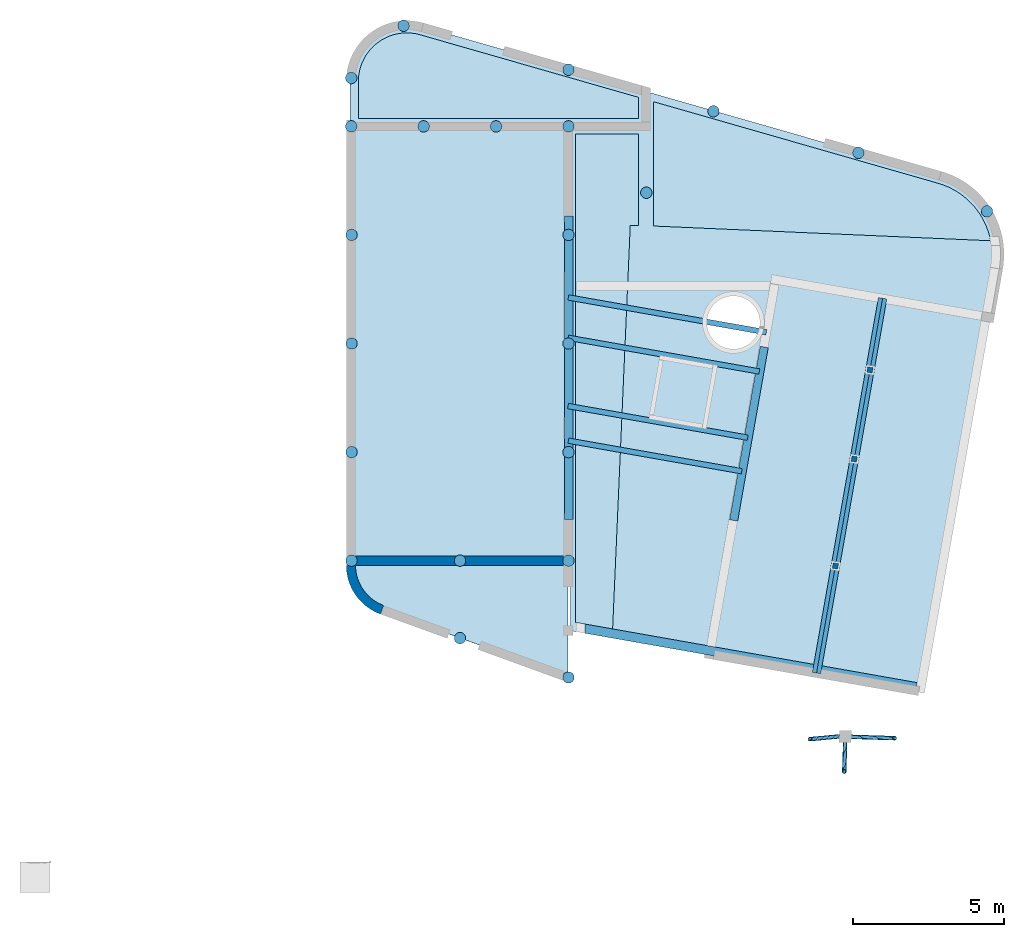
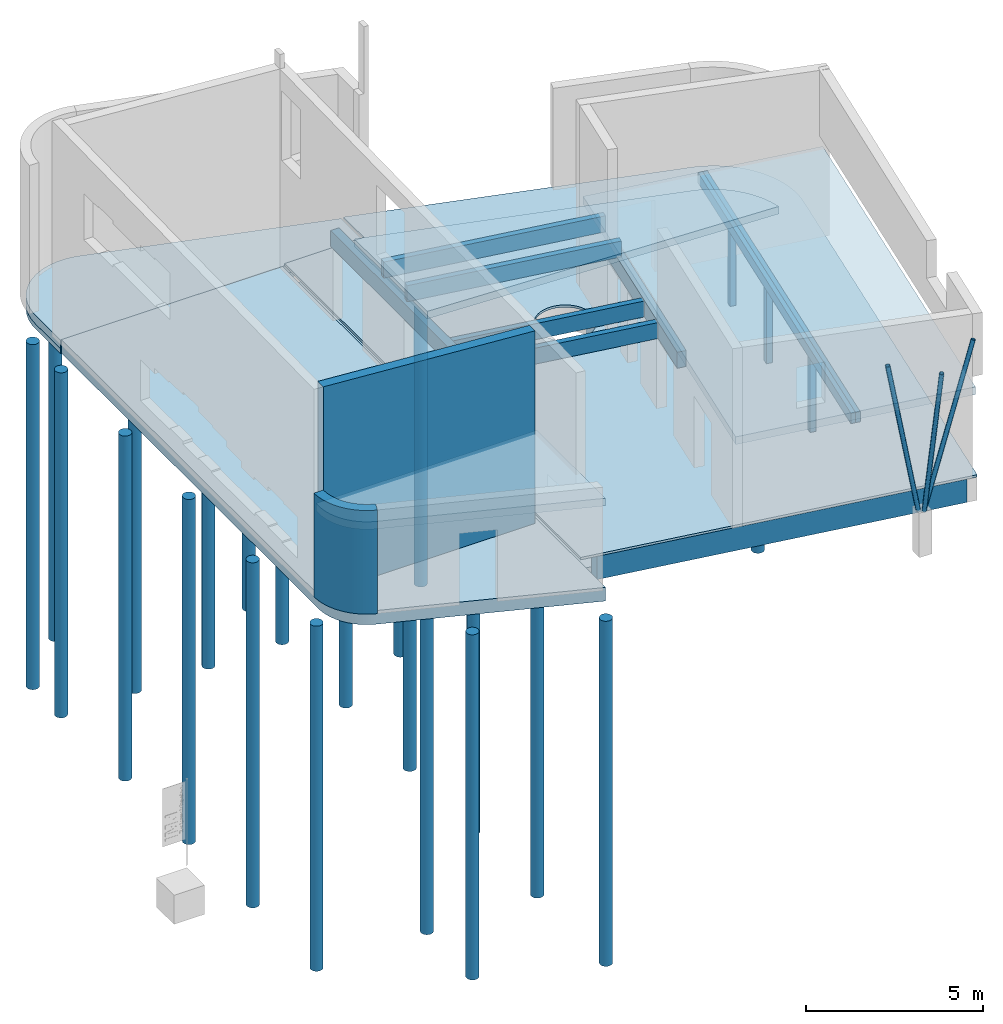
# One storey, part 1 of 3: 22 piles, 11 beams, 8 slabs, 3 columns, 3 walls, 1 opening.
"""IFC2X3 building model written with IfcOpenShell, lengths in millimetres."""

from ifc_helpers import new_model, entity, si_unit, converted_unit, derived_unit, direction, frame, frame_2d, origin, origin_2d_with_axis, place, context, subcontext, project, spatial, polyline, circle_curve, parameter, trimmed, segment, composite_curve, rectangle, circle, hollow_circle, outline, extrude, clip, bounded_halfspace, source, transform, mapped, material, material_list, layer, layer_set, layer_usage, type_object, type_shapes, element, save


model = new_model("IFC2X3")

# Units and contexts
model_context = context("Model", 3, precision=0.01, world=origin(), true_north=direction((6.12303176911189e-17, 1.0)))
context_of_model = context(None, 3, precision=0.01, world=origin(), true_north=direction((6.12303176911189e-17, 1.0)))
body_context = subcontext(model_context, "Body", "Model", "MODEL_VIEW")
ifc_project = project(units=[si_unit("LENGTHUNIT", "METRE", prefix="MILLI"), si_unit("AREAUNIT", "SQUARE_METRE"), si_unit("VOLUMEUNIT", "CUBIC_METRE"), converted_unit("PLANEANGLEUNIT", "DEGREE", entity("IfcRatioMeasure", 0.0174532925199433), si_unit("PLANEANGLEUNIT", "RADIAN"), dimensions=[0, 0, 0, 0, 0, 0, 0]), si_unit("MASSUNIT", "GRAM", prefix="KILO"), derived_unit("MASSDENSITYUNIT", [(si_unit("MASSUNIT", "GRAM", prefix="KILO"), 1), (si_unit("LENGTHUNIT", "METRE"), -3)]), derived_unit("MOMENTOFINERTIAUNIT", [(si_unit("LENGTHUNIT", "METRE"), 4)]), si_unit("TIMEUNIT", "SECOND"), si_unit("FREQUENCYUNIT", "HERTZ"), si_unit("THERMODYNAMICTEMPERATUREUNIT", "DEGREE_CELSIUS"), derived_unit("THERMALTRANSMITTANCEUNIT", [(si_unit("MASSUNIT", "GRAM", prefix="KILO"), 1), (si_unit("THERMODYNAMICTEMPERATUREUNIT", "KELVIN"), -1), (si_unit("TIMEUNIT", "SECOND"), -3)]), derived_unit("VOLUMETRICFLOWRATEUNIT", [(si_unit("LENGTHUNIT", "METRE"), 3), (si_unit("TIMEUNIT", "SECOND"), -1)]), si_unit("ELECTRICCURRENTUNIT", "AMPERE"), si_unit("ELECTRICVOLTAGEUNIT", "VOLT"), si_unit("POWERUNIT", "WATT"), si_unit("FORCEUNIT", "NEWTON", prefix="KILO"), si_unit("ILLUMINANCEUNIT", "LUX"), si_unit("LUMINOUSFLUXUNIT", "LUMEN"), si_unit("LUMINOUSINTENSITYUNIT", "CANDELA"), derived_unit("USERDEFINED", [(si_unit("MASSUNIT", "GRAM", prefix="KILO"), -1), (si_unit("LENGTHUNIT", "METRE"), -2), (si_unit("TIMEUNIT", "SECOND"), 3), (si_unit("LUMINOUSFLUXUNIT", "LUMEN"), 1)]), derived_unit("LINEARVELOCITYUNIT", [(si_unit("LENGTHUNIT", "METRE"), 1), (si_unit("TIMEUNIT", "SECOND"), -1)]), si_unit("PRESSUREUNIT", "PASCAL"), derived_unit("USERDEFINED", [(si_unit("LENGTHUNIT", "METRE"), -2), (si_unit("MASSUNIT", "GRAM", prefix="KILO"), 1), (si_unit("TIMEUNIT", "SECOND"), -2)]), derived_unit("LINEARFORCEUNIT", [(si_unit("MASSUNIT", "GRAM", prefix="KILO"), 1), (si_unit("LENGTHUNIT", "METRE"), 1), (si_unit("TIMEUNIT", "SECOND"), -2), (si_unit("LENGTHUNIT", "METRE"), -1)]), derived_unit("PLANARFORCEUNIT", [(si_unit("MASSUNIT", "GRAM", prefix="KILO"), 1), (si_unit("LENGTHUNIT", "METRE"), 1), (si_unit("TIMEUNIT", "SECOND"), -2), (si_unit("LENGTHUNIT", "METRE"), -2)])], contexts=[model_context, context_of_model])

# Site, building, storey
site_placement = place(None, origin())
site = spatial("IfcSite", under=ifc_project, at=site_placement, Name="Default", CompositionType="ELEMENT")
building_placement = place(site_placement, origin())
building = spatial("IfcBuilding", under=site, at=building_placement, Name="IFc", CompositionType="ELEMENT")
storey_placement = place(building_placement, frame((0.0, 0.0, -70.0)))
storey = spatial("IfcBuildingStorey", under=building, at=storey_placement, Name="00 begane grond b.k. ruwe vloer", CompositionType="ELEMENT", Elevation=-70.0)

# Piles
ifc_material_1 = material(Name="IMd_beton_IHWG")
shared_shape_1 = source(origin(), body_context, "Body", "SweptSolid", [
    extrude(circle(Radius=190.0, at=frame_2d((3.25983355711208e-29, -2.85239492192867e-13), x_axis=(1.0, 0.0))), frame((0.0, 0.0, -13000.0), z_axis=(0.0, 0.0, 1.0), x_axis=(-1.0, 0.0, 0.0)), (0.0, 0.0, 1.0), 11889.9999999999),
])
for number, where in (
    (1, (9984.0, 24397.0, 70.0)),
    (2, (17187.0, 24397.0, 70.0)),
    (3, (17187.0, 26276.860835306, 70.0)),
    (4, (17187.0, 9997.0, 70.0)),
    (5, (9993.0, 9997.0, 70.0)),
    (6, (13590.0, 9997.0, 70.0)),
    (7, (17187.0, 6122.47168214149, 70.0)),
    (8, (19768.6696056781, 22197.0, 70.0)),
    (9, (31063.5922916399, 21580.8594844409, 70.0)),
    (10, (21993.3084796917, 24898.6740562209, 70.0)),
    (11, (26799.6169593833, 23520.4872771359, 70.0)),
    (12, (12385.0, 24397.0, 70.0)),
    (13, (14786.0, 24397.0, 70.0)),
    (14, (13590.0, 7428.04132245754, 70.0)),
    (15, (9984.0, 25998.7181915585, 70.0)),
    (16, (11719.4566353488, 27734.1748269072, 70.0)),
    (17, (17187.0, 13597.0, 70.0)),
    (18, (9993.0, 13597.0, 70.0)),
    (19, (17187.0, 17197.0, 70.0)),
    (20, (9993.0, 17197.0, 70.0)),
    (21, (17187.0, 20797.0, 70.0)),
    (22, (9993.0, 20797.0, 70.0)),
):
    element("IfcPile", number, at=place(storey_placement, frame(where)), inside=storey, material=ifc_material_1, Name="NLRS_17_SFO_TLB_funderingspaal rond_gen_ISR:Type 01_ø380/450_Fd=900kN", ObjectType="NLRS_17_SFO_TLB_funderingspaal rond_gen_ISR:Type 01_ø380/450_Fd=900kN", PredefinedType="NOTDEFINED", context=body_context, shape_type="MappedRepresentation", body=[
        mapped(shared_shape_1, transform((0.0, 0.0, 0.0), scale=1.0)),
    ])

# Columns
ifc_material_2 = material(Name="ISR_Hout")
ifc_material_3 = material(Name="<Unnamed>")
ifc_material_list = material_list([ifc_material_3, ifc_material_2])
column_type = type_object("IfcColumnType", Name="NLRS_28_SC_TLB_kolom vierkant hout_generiek_ISR:180x180 (GL)", PredefinedType="COLUMN", material=ifc_material_list)
shared_shape_2 = source(origin(), body_context, "Body", "SweptSolid", [
    extrude(rectangle(XDim=180.0, YDim=180.0, at=origin_2d_with_axis()), frame((0.0, 0.0, 0.0), z_axis=(0.0, 0.0, 1.0), x_axis=(0.0, -1.0, 0.0)), (0.0, 0.0, 1.0), 2632.00000000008),
])
type_shapes(column_type, [shared_shape_2])
for number, where, z_axis, x_axis, name in (
    (23, (26036.8769212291, 9820.45763454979, 70.0), (0.0, 0.0, 1.0), (0.984807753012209, -0.173648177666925, 0.0), "NLRS_28_SC_TLB_kolom vierkant hout_generiek_ISR:180x180 (GL)"),
    (24, (26662.0103603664, 13365.7655427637, 70.0), (0.0, 0.0, 1.0), (0.984807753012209, -0.173648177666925, 0.0), "NLRS_28_SC_TLB_kolom vierkant hout_generiek_ISR:180x180 (GL)"),
    (25, (27182.9548933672, 16320.1888018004, 70.0), (0.0, 0.0, 1.0), (0.984807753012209, -0.173648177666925, 0.0), "NLRS_28_SC_TLB_kolom vierkant hout_generiek_ISR:180x180 (GL)"),
):
    element("IfcColumn", number, at=place(storey_placement, frame(where, z_axis=z_axis, x_axis=x_axis)), inside=storey, type_object=column_type, material=ifc_material_2, Name=name, ObjectType="NLRS_28_SC_TLB_kolom vierkant hout_generiek_ISR:180x180 (GL)", context=body_context, shape_type="MappedRepresentation", body=[
        mapped(shared_shape_2, transform((0.0, 0.0, 0.0), scale=1.0)),
    ])

# Beams
ifc_material_4 = material(Name="IMd_hout")
beam_type_1 = type_object("IfcBeamType", Name="NLRS_28_SF_LIB_balk hout gelamineerd_generiek_ISR:HB 180x550", PredefinedType="NOTDEFINED")
beam_1_placement = place(storey_placement, frame((17178.0, 15123.5488943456, 3070.0), z_axis=(0.0, 0.0, 1.0), x_axis=(0.984807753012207, -0.173648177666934, 0.0)))
element("IfcBeam", 26, at=beam_1_placement, inside=storey, type_object=beam_type_1, material=ifc_material_4, Name="NLRS_28_SF_LIB_balk hout gelamineerd_generiek_ISR:HB 180x550", ObjectType="NLRS_28_SF_LIB_balk hout gelamineerd_generiek_ISR:HB 180x550", context=body_context, shape_type="SweptSolid", body=[
    extrude(rectangle(XDim=550.0, YDim=179.999999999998, at=frame_2d((2.55795384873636e-13, 0.0), x_axis=(1.0, 0.0))), frame((-6.7245769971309, 0.0, -295.0), z_axis=(1.0, 0.0, 0.0), x_axis=(0.0, 0.0, -1.0)), (0.0, 0.0, 1.0), 6048.88738526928),
])
beam_2_placement = place(storey_placement, frame((17178.0, 13976.9142265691, 3070.0), z_axis=(0.0, 0.0, 1.0), x_axis=(0.984807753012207, -0.173648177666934, 0.0)))
element("IfcBeam", 27, at=beam_2_placement, inside=storey, type_object=beam_type_1, material=ifc_material_4, Name="NLRS_28_SF_LIB_balk hout gelamineerd_generiek_ISR:HB 180x550", ObjectType="NLRS_28_SF_LIB_balk hout gelamineerd_generiek_ISR:HB 180x550", context=body_context, shape_type="SweptSolid", body=[
    extrude(rectangle(XDim=550.0, YDim=179.999999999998, at=frame_2d((2.55795384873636e-13, 0.0), x_axis=(1.0, 0.0))), frame((7.133167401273, 0.0, -295.0), z_axis=(1.0, 0.0, 0.0), x_axis=(0.0, 0.0, -1.0)), (0.0, 0.0, 1.0), 5835.91862036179),
])
beam_3_placement = place(storey_placement, frame((17178.0, 18726.0679760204, 3070.0), z_axis=(0.0, 0.0, 1.0), x_axis=(0.984807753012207, -0.173648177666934, 0.0)))
element("IfcBeam", 28, at=beam_3_placement, inside=storey, type_object=beam_type_1, material=ifc_material_4, Name="NLRS_28_SF_LIB_balk hout gelamineerd_generiek_ISR:HB 180x550", ObjectType="NLRS_28_SF_LIB_balk hout gelamineerd_generiek_ISR:HB 180x550", context=body_context, shape_type="SweptSolid", body=[
    extrude(rectangle(XDim=550.0, YDim=179.999999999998, at=frame_2d((2.55795384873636e-13, 0.0), x_axis=(1.0, 0.0))), frame((4.22572315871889, 0.0, 275.0), z_axis=(1.0, 0.0, 0.0), x_axis=(0.0, 0.0, -1.0)), (0.0, 0.0, 1.0), 6666.50795865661),
])
beam_4_placement = place(storey_placement, frame((17178.0, 17386.6706193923, 3070.0), z_axis=(0.0, 0.0, 1.0), x_axis=(0.984807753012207, -0.173648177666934, 0.0)))
element("IfcBeam", 29, at=beam_4_placement, inside=storey, type_object=beam_type_1, material=ifc_material_4, Name="NLRS_28_SF_LIB_balk hout gelamineerd_generiek_ISR:HB 180x550", ObjectType="NLRS_28_SF_LIB_balk hout gelamineerd_generiek_ISR:HB 180x550", context=body_context, shape_type="SweptSolid", body=[
    extrude(rectangle(XDim=550.0, YDim=180.0, at=frame_2d((2.55795384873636e-13, -1.06581410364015e-12), x_axis=(1.0, 0.0))), frame((-3.02019640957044, 0.0, 275.0), z_axis=(1.0, 0.0, 0.0), x_axis=(0.0, 0.0, -1.0)), (0.0, 0.0, 1.0), 6438.16996807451),
])
beam_type_2 = type_object("IfcBeamType", Name="NLRS_28_SF_LIB_balk hout gelamineerd_generiek_ISR:HB 140x350", PredefinedType="NOTDEFINED")
beam_5_placement = place(storey_placement, frame((27531.2949215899, 18698.8372047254, 3070.0), z_axis=(0.0, 0.0, 1.0), x_axis=(-0.173648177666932, -0.984807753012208, 0.0)))
element("IfcBeam", 30, at=beam_5_placement, inside=storey, type_object=beam_type_2, material=ifc_material_4, Name="NLRS_28_SF_LIB_balk hout gelamineerd_generiek_ISR:HB 140x350", ObjectType="NLRS_28_SF_LIB_balk hout gelamineerd_generiek_ISR:HB 140x350", context=body_context, shape_type="SweptSolid", body=[
    extrude(rectangle(XDim=350.0, YDim=140.000000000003, at=frame_2d((2.70006239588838e-13, -2.32347474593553e-12), x_axis=(1.0, 0.0))), frame((-11.096532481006, 0.0, -193.0), z_axis=(1.0, 0.0, 0.0), x_axis=(0.0, 0.0, -1.0)), (0.0, 0.0, 1.0), 12617.096532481),
])
beam_6_placement = place(storey_placement, frame((27669.1680070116, 18674.526459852, 3070.0), z_axis=(0.0, 0.0, 1.0), x_axis=(-0.173648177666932, -0.984807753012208, 0.0)))
element("IfcBeam", 31, at=beam_6_placement, inside=storey, type_object=beam_type_2, material=ifc_material_4, Name="NLRS_28_SF_LIB_balk hout gelamineerd_generiek_ISR:HB 140x350", ObjectType="NLRS_28_SF_LIB_balk hout gelamineerd_generiek_ISR:HB 140x350", context=body_context, shape_type="SweptSolid", body=[
    extrude(rectangle(XDim=350.0, YDim=140.000000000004, at=frame_2d((2.70006239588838e-13, -2.1387336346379e-12), x_axis=(1.0, 0.0))), frame((-11.0965324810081, 0.0, -193.0), z_axis=(1.0, 0.0, 0.0), x_axis=(0.0, 0.0, -1.0)), (0.0, 0.0, 1.0), 12617.096532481),
])
beam_type_3 = type_object("IfcBeamType", Name="NLRS_28_SF_LIB_balk hout gelamineerd_generiek_ISR:HB 271x550", PredefinedType="NOTDEFINED")
beam_7_placement = place(storey_placement, frame((17195.5000000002, 21908.5704000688, 3070.0), z_axis=(0.0, 0.0, 1.0), x_axis=(0.0, -1.0, 0.0)))
element("IfcBeam", 32, at=beam_7_placement, inside=storey, type_object=beam_type_3, material=ifc_material_4, Name="NLRS_28_SF_LIB_balk hout gelamineerd_generiek_ISR:HB 271x550", ObjectType="NLRS_28_SF_LIB_balk hout gelamineerd_generiek_ISR:HB 271x550", context=body_context, shape_type="SweptSolid", body=[
    extrude(rectangle(XDim=550.0, YDim=271.000000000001, at=frame_2d((-2.55795384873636e-13, -1.08002495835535e-12), x_axis=(1.0, 0.0))), frame((475.070400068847, 0.0, -293.0), z_axis=(1.0, 0.0, 0.0), x_axis=(0.0, 0.0, -1.0)), (0.0, 0.0, 1.0), 10067.0000003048),
])
beam_8_placement = place(storey_placement, frame((23982.4193626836, 18817.1214009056, 3070.0), z_axis=(0.0, 0.0, 1.0), x_axis=(-0.173648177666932, -0.984807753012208, 0.0)))
element("IfcBeam", 33, at=beam_8_placement, inside=storey, type_object=beam_type_3, material=ifc_material_4, Name="NLRS_28_SF_LIB_balk hout gelamineerd_generiek_ISR:HB 271x550", ObjectType="NLRS_28_SF_LIB_balk hout gelamineerd_generiek_ISR:HB 271x550", context=body_context, shape_type="SweptSolid", body=[
    extrude(rectangle(XDim=550.0, YDim=270.999999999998, at=frame_2d((-2.55795384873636e-13, 1.84741111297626e-13), x_axis=(1.0, 0.0))), frame((1761.23141961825, 0.0, -293.0), z_axis=(1.0, 0.0, 0.0), x_axis=(0.0, 0.0, -1.0)), (0.0, 0.0, 1.0), 5842.00000026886),
])
ifc_material_5 = material(Name="IMd_staal")
beam_type_4 = type_object("IfcBeamType", Name="NLRS_28_SF_LIB_balk buis_generiek_ISR:ø139.7x8", PredefinedType="NOTDEFINED")
beam_9_placement = place(storey_placement, frame((26365.4879994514, 4162.8592157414, 678.499444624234), z_axis=(0.959358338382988, 0.00263696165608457, -0.282178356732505), x_axis=(0.282190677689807, -0.00896482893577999, 0.95931645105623)))
element("IfcBeam", 34, at=beam_9_placement, inside=storey, type_object=beam_type_4, material=ifc_material_5, Name="NLRS_28_SF_LIB_balk buis_generiek_ISR:ø139.7x8", ObjectType="NLRS_28_SF_LIB_balk buis_generiek_ISR:ø139.7x8", context=body_context, shape_type="SweptSolid", body=[
    extrude(hollow_circle(Radius=69.8500000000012, WallThickness=8.00000000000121, at=origin_2d_with_axis()), frame((0.0, 2.5227370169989, 69.8044289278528), z_axis=(1.0, 0.0, 0.0), x_axis=(0.0, -0.999347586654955, 0.0361164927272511)), (0.0, 0.0, 1.0), 5552.16664035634),
])
beam_10_placement = place(storey_placement, frame((26312.9619775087, 4173.4756224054, 676.053461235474), z_axis=(0.981553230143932, -0.00341636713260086, 0.191158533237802), x_axis=(-0.191189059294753, -0.0175394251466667, 0.981396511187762)))
element("IfcBeam", 35, at=beam_10_placement, inside=storey, type_object=beam_type_4, material=ifc_material_5, Name="NLRS_28_SF_LIB_balk buis_generiek_ISR:ø139.7x8", ObjectType="NLRS_28_SF_LIB_balk buis_generiek_ISR:ø139.7x8", context=body_context, shape_type="SweptSolid", body=[
    extrude(hollow_circle(Radius=69.8500000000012, WallThickness=8.00000000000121, at=origin_2d_with_axis()), frame((0.0, -2.15490487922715, -69.8167521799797), z_axis=(1.0, 0.0, 0.0), x_axis=(0.0, 0.0308504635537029, 0.999524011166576)), (0.0, 0.0, 1.0), 5520.0),
])
beam_11_placement = place(storey_placement, frame((26364.5578838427, 4112.72055564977, 702.677431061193), z_axis=(0.999981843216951, -0.00114927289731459, 0.00591543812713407), x_axis=(-0.00602604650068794, -0.190714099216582, 0.981627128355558)))
element("IfcBeam", 36, at=beam_11_placement, inside=storey, type_object=beam_type_4, material=ifc_material_5, Name="NLRS_28_SF_LIB_balk buis_generiek_ISR:ø139.7x8", ObjectType="NLRS_28_SF_LIB_balk buis_generiek_ISR:ø139.7x8", context=body_context, shape_type="SweptSolid", body=[
    extrude(hollow_circle(Radius=69.8500000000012, WallThickness=8.00000000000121, at=frame_2d((1.80148737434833e-14, -5.31190497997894e-13), x_axis=(1.0, 0.0))), frame((0.0, 69.8125889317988, -2.28580984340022), z_axis=(1.0, 0.0, 0.0), x_axis=(0.0, 0.0327245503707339, 0.999464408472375)), (0.0, 0.0, 1.0), 5481.06397572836),
])

# Slabs
ifc_material_6 = material(Name="IMd_underlayment")
ifc_layer_1 = layer(ifc_material_6, 18.0)
ifc_layer_2 = layer(ifc_material_4, 246.0)
ifc_layer_set_1 = layer_set([ifc_layer_1, ifc_layer_2], Name="Floor:NLRS_23_FL Houten_balklaag_71x246+underlayment_d=18")
ifc_layer_usage_1 = layer_usage(ifc_layer_set_1, "AXIS3", "POSITIVE", 0.0)
slab_type_1 = type_object("IfcSlabType", Name="Floor:NLRS_23_FL Houten_balklaag_71x246+underlayment_d=18", PredefinedType="FLOOR", material=ifc_layer_set_1)
slab_1_placement = place(storey_placement, origin())
element("IfcSlab", 37, at=slab_1_placement, inside=storey, type_object=slab_type_1, material=ifc_layer_usage_1, Name="Floor:NLRS_23_FL Houten_balklaag_71x246+underlayment_d=18", ObjectType="Floor:NLRS_23_FL Houten_balklaag_71x246+underlayment_d=18", PredefinedType="FLOOR", context=body_context, shape_type="SweptSolid", body=[
    extrude(rectangle(XDim=12600.0, YDim=7200.0, at=origin_2d_with_axis()), frame((26505.7270004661, 12479.4385650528, 3070.0), z_axis=(0.0, 0.0, -1.0), x_axis=(-0.173648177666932, -0.984807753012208, 0.0)), (0.0, 0.0, 1.0), 264.0),
])
ifc_layer_usage_2 = layer_usage(ifc_layer_set_1, "AXIS3", "POSITIVE", 0.0)
slab_type_2 = type_object("IfcSlabType", Name="Floor:NLRS_23_FL Houten_balklaag_71x246+underlayment_d=18", PredefinedType="FLOOR", material=ifc_layer_set_1)
slab_2_placement = place(storey_placement, origin())
element("IfcSlab", 38, at=slab_2_placement, inside=storey, type_object=slab_type_2, material=ifc_layer_usage_2, Name="Floor:NLRS_23_FL Houten_balklaag_71x246+underlayment_d=18", ObjectType="Floor:NLRS_23_FL Houten_balklaag_71x246+underlayment_d=18", PredefinedType="FLOOR", context=body_context, shape_type="SweptSolid", body=[
    extrude(outline(composite_curve([segment(polyline([(973.887794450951, -3081.93892615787), (1130.07446960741, -3081.93892615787)]), True, "CONTINUOUS"), segment(polyline([(1130.07446960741, -3081.93892615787), (1130.07446960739, 4118.06107384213)]), True, "CONTINUOUS"), segment(polyline([(1130.07446960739, 4118.06107384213), (-2743.56181453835, 4118.06107384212)]), True, "CONTINUOUS"), segment(polyline([(-2743.56181453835, 4118.06107384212), (-490.474919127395, -2072.24429536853)]), True, "CONTINUOUS"), segment(trimmed(circle_curve(frame_2d((977.706568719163, -1509.66873235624), x_axis=(-0.933794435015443, -0.357809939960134)), 1572.27483136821), [parameter(0.0)], [parameter(68.8950809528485)], True, "PARAMETER"), True, "CONTINUOUS")], self_intersect=False)), frame((13056.938926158, 8869.92553039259, 3070.0), z_axis=(0.0, 0.0, -1.0), x_axis=(0.0, 1.0, 0.0)), (0.0, 0.0, 1.0), 264.0),
])
ifc_material_7 = material(Name="IMd_beton_druklaag")
ifc_layer_3 = layer(ifc_material_7, 70.0)
ifc_material_8 = material(Name="IMd_beton_prefab_kanaalplaat")
ifc_layer_4 = layer(ifc_material_8, 260.0)
ifc_material_9 = material(Name="IMd_isolatie")
ifc_layer_5 = layer(ifc_material_9, 140.0)
ifc_layer_set_2 = layer_set([ifc_layer_3, ifc_layer_4, ifc_layer_5], Name="Floor:NLRS_23_FL Kanaalplaat_d=260_druklaag_d=70_geisoleerd_rc4")
ifc_layer_usage_3 = layer_usage(ifc_layer_set_2, "AXIS3", "POSITIVE", 0.0)
slab_type_3 = type_object("IfcSlabType", Name="Floor:NLRS_23_FL Kanaalplaat_d=260_druklaag_d=70_geisoleerd_rc4", PredefinedType="FLOOR", material=ifc_layer_set_2)
slab_3_placement = place(storey_placement, origin())
element("IfcSlab", 39, at=slab_3_placement, inside=storey, type_object=slab_type_3, material=ifc_layer_usage_3, Name="Floor:NLRS_23_FL Kanaalplaat_d=260_druklaag_d=70_geisoleerd_rc4", ObjectType="Floor:NLRS_23_FL Kanaalplaat_d=260_druklaag_d=70_geisoleerd_rc4", PredefinedType="FLOOR", context=body_context, shape_type="SweptSolid", body=[
    extrude(outline(composite_curve([segment(polyline([(-4856.45412573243, -3087.92121397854), (9790.16159404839, -3087.92121397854)]), True, "CONTINUOUS"), segment(polyline([(9790.16159404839, -3087.92121397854), (9790.16159404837, 4115.07878602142)]), True, "CONTINUOUS"), segment(polyline([(9790.16159404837, 4115.07878602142), (-8484.36672381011, 4115.07878602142)]), True, "CONTINUOUS"), segment(polyline([(-8484.36672381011, 4115.07878602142), (-6239.50233855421, -2054.31514408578)]), True, "CONTINUOUS"), segment(trimmed(circle_curve(frame_2d((-4759.20667885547, -1515.67827898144), x_axis=(-0.939722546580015, -0.341937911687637)), 1575.2475718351), [parameter(0.0)], [parameter(66.4656250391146)], True, "PARAMETER"), True, "CONTINUOUS")], self_intersect=False)), frame((13062.9212139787, 14606.8384059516, 0.0), z_axis=(0.0, 0.0, -1.0), x_axis=(0.0, 1.0, 0.0)), (0.0, 0.0, 1.0), 470.0),
])

# Slab, opening
ifc_layer_6 = layer(ifc_material_1, 80.0)
ifc_layer_set_3 = layer_set([ifc_layer_6], Name="Floor:NLRS_23_FL Beton_ihwg_d=80")
ifc_layer_usage_4 = layer_usage(ifc_layer_set_3, "AXIS3", "POSITIVE", 0.0)
slab_type_4 = type_object("IfcSlabType", Name="Floor:NLRS_23_FL Beton_ihwg_d=80", PredefinedType="FLOOR", material=ifc_layer_set_3)
slab_4_placement = place(storey_placement, frame((17257.1152941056, 5605.9947554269, -20.0)))
slab_4 = element("IfcSlab", 40, at=slab_4_placement, inside=storey, type_object=slab_type_4, material=ifc_layer_usage_4, Name="Floor:NLRS_23_FL Beton_ihwg_d=80", ObjectType="Floor:NLRS_23_FL Beton_ihwg_d=80", PredefinedType="FLOOR", context=body_context, shape_type="SweptSolid", body=[
    extrude(outline(composite_curve([segment(polyline([(7124.18717939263, -7895.66640337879), (7127.62502700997, 8810.43220719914)]), True, "CONTINUOUS"), segment(polyline([(7127.62502700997, 8810.43220719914), (4545.95547599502, 8810.96347345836)]), True, "CONTINUOUS"), segment(polyline([(4545.95547599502, 8810.96347345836), (4546.19265401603, 9963.52165759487)]), True, "CONTINUOUS"), segment(polyline([(4546.19265401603, 9963.52165759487), (-5162.03672675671, 7181.89361416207)]), True, "CONTINUOUS"), segment(trimmed(circle_curve(frame_2d((-4415.87101907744, 4577.6820757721), x_axis=(-0.999999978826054, 0.000205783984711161)), 2709.0), [parameter(286.000000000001)], [parameter(10.009898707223)], True, "PARAMETER"), True, "CONTINUOUS"), segment(polyline([(-7083.73075307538, 4107.35725215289), (-4603.13627288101, -9963.50993950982)]), True, "CONTINUOUS"), segment(polyline([(-4603.13627288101, -9963.50993950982), (7124.18717939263, -7895.66640337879)]), True, "CONTINUOUS")], self_intersect=False)), frame((7127.62502700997, 9963.50993950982, 80.0), z_axis=(0.0, 0.0, -1.0), x_axis=(-1.0, 0.0, 0.0)), (0.0, 0.0, 1.0), 80.0),
])
opening_placement = place(slab_4_placement, frame((4860.83737280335, 11936.2101993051, 80.0)))
element("IfcOpeningElement", 41, at=opening_placement, cuts=slab_4, Name="Floor:NLRS_23_FL Beton_ihwg_d=80:2", ObjectType="Opening", context=body_context, shape_type="SweptSolid", body=[
    extrude(circle(Radius=879.999999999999, at=frame_2d((536.412543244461, -351.346987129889), x_axis=(1.0, 0.0))), frame((0.0, 0.0, 0.0), z_axis=(0.0, 0.0, -1.0), x_axis=(0.999999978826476, 0.000205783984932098, 0.0)), (0.0, 0.0, 1.0), 80.0),
])

# Slabs
ifc_layer_7 = layer(ifc_material_1, 300.0)
ifc_layer_set_4 = layer_set([ifc_layer_7], Name="Floor:NLRS_23_FL Beton_ihwg_d=300")
ifc_layer_usage_5 = layer_usage(ifc_layer_set_4, "AXIS3", "POSITIVE", 0.0)
slab_type_5 = type_object("IfcSlabType", Name="Floor:NLRS_23_FL Beton_ihwg_d=300", PredefinedType="FLOOR", material=ifc_layer_set_4)
slab_5_placement = place(storey_placement, origin())
element("IfcSlab", 42, at=slab_5_placement, inside=storey, type_object=slab_type_5, material=ifc_layer_usage_5, Name="Floor:NLRS_23_FL Beton_ihwg_d=300", ObjectType="Floor:NLRS_23_FL Beton_ihwg_d=300", PredefinedType="FLOOR", context=body_context, shape_type="SweptSolid", body=[
    extrude(outline(composite_curve([segment(polyline([(-1184.22135581, -4451.30805211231), (212.503037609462, -4451.30805211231)]), True, "CONTINUOUS"), segment(trimmed(circle_curve(frame_2d((212.503037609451, -2459.55652051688), x_axis=(0.0, -1.0)), 1991.75153159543), [parameter(0.0)], [parameter(106.000691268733)], True, "PARAMETER"), True, "CONTINUOUS"), segment(polyline([(2127.09086896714, -1910.53229552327), (28.8488050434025, 5406.57419987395)]), True, "CONTINUOUS"), segment(polyline([(28.8488050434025, 5406.57419987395), (-1184.22135581, 5406.57419987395)]), True, "CONTINUOUS"), segment(polyline([(-1184.22135581, 5406.57419987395), (-1184.22135581, -4451.30805211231)]), True, "CONTINUOUS")], self_intersect=False)), frame((14388.0925198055, 25546.22135581, 0.0), z_axis=(0.0, 0.0, -1.0), x_axis=(0.0, 1.0, 0.0)), (0.0, 0.0, 1.0), 300.0),
])
ifc_layer_8 = layer(ifc_material_1, 170.0)
ifc_layer_set_5 = layer_set([ifc_layer_8], Name="Floor:NLRS_23_FL Beton_ihwg_d=170")
ifc_layer_usage_6 = layer_usage(ifc_layer_set_5, "AXIS3", "POSITIVE", 0.0)
slab_type_6 = type_object("IfcSlabType", Name="Floor:NLRS_23_FL Beton_ihwg_d=170", PredefinedType="FLOOR", material=ifc_layer_set_5)
slab_6_placement = place(storey_placement, origin())
element("IfcSlab", 43, at=slab_6_placement, inside=storey, type_object=slab_type_6, material=ifc_layer_usage_6, Name="Floor:NLRS_23_FL Beton_ihwg_d=170", ObjectType="Floor:NLRS_23_FL Beton_ihwg_d=170", PredefinedType="FLOOR", context=body_context, shape_type="SweptSolid", body=[
    extrude(outline(composite_curve([segment(polyline([(-1184.22135581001, -5406.57419987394), (28.8488050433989, -5406.57419987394)]), True, "CONTINUOUS"), segment(polyline([(28.8488050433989, -5406.57419987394), (2127.09086896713, 1910.53229552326)]), True, "CONTINUOUS"), segment(trimmed(circle_curve(frame_2d((212.503037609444, 2459.55652051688), x_axis=(0.0, -1.0)), 1991.75153159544), [parameter(73.9993087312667)], [parameter(180.0)], True, "PARAMETER"), True, "CONTINUOUS"), segment(polyline([(212.503037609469, 4451.30805211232), (-1184.22135581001, 4451.30805211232)]), True, "CONTINUOUS"), segment(polyline([(-1184.22135581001, 4451.30805211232), (-1184.22135581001, -5406.57419987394)]), True, "CONTINUOUS")], self_intersect=False), holes=[composite_curve([segment(polyline([(-188.172444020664, -5121.57708587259), (-896.221355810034, -5121.57708587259)]), True, "CONTINUOUS"), segment(polyline([(-896.221355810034, -5121.57708587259), (-896.221355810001, 4163.09251980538)]), True, "CONTINUOUS"), segment(polyline([(-896.221355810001, 4163.09251980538), (455.305358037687, 4163.09251980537)]), True, "CONTINUOUS"), segment(trimmed(circle_curve(frame_2d((343.928630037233, 2560.87624362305), x_axis=(0.0, -1.0)), 1606.08274107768), [parameter(73.9999999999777)], [parameter(176.023528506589)], True, "PARAMETER"), False, "CONTINUOUS"), segment(polyline([(1887.79444954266, 2118.17984364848), (-188.172444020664, -5121.57708587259)]), True, "CONTINUOUS")], self_intersect=False)]), frame((14388.0925198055, 25546.22135581, -470.0), z_axis=(0.0, 0.0, 1.0), x_axis=(0.0, 1.0, 0.0)), (0.0, 0.0, 1.0), 170.0),
])
ifc_layer_9 = layer(ifc_material_8, 260.0)
ifc_layer_set_6 = layer_set([ifc_layer_9], Name="Floor:NLRS_23_FL Kanaalplaat_d=260")
ifc_layer_usage_7 = layer_usage(ifc_layer_set_6, "AXIS3", "POSITIVE", 0.0)
slab_type_7 = type_object("IfcSlabType", Name="Floor:NLRS_23_FL Kanaalplaat_d=260", PredefinedType="FLOOR")
slab_7_placement = place(storey_placement, frame((17425.0, 7733.50305750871, -820.0)))
element("IfcSlab", 44, at=slab_7_placement, inside=storey, type_object=slab_type_7, material=ifc_layer_usage_7, Name="Floor:NLRS_23_FL Kanaalplaat_d=260", ObjectType="Floor:NLRS_23_FL Kanaalplaat_d=260", PredefinedType="FLOOR", context=body_context, shape_type="SweptSolid", body=[
    extrude(outline(composite_curve([segment(polyline([(4294.79757035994, 4618.34039636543), (4294.79757035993, 8740.58658070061)]), True, "CONTINUOUS"), segment(polyline([(4294.79757035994, 8740.58658070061), (-5137.89550995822, 6035.80536464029)]), True, "CONTINUOUS"), segment(trimmed(circle_curve(frame_2d((-4458.44942786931, 3666.29528415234), x_axis=(-1.0, 0.0)), 2465.0), [parameter(286.0)], [parameter(349.160337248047)], True, "PARAMETER"), True, "CONTINUOUS"), segment(polyline([(-6879.46717603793, 4129.86627445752), (4294.79757035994, 4618.34039636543)]), True, "CONTINUOUS")], self_intersect=False)), frame((6879.46717603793, 8740.58658070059, 260.0), z_axis=(0.0, 0.0, -1.0), x_axis=(-1.0, 0.0, 0.0)), (0.0, 0.0, 1.0), 260.0),
])
slab_type_8 = type_object("IfcSlabType", Name="Floor:NLRS_23_FL Kanaalplaat_d=260", PredefinedType="FLOOR", material=ifc_layer_set_6)
slab_8_placement = place(storey_placement, frame((17425.0, 7733.50305750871, -820.0)))
element("IfcSlab", 45, at=slab_8_placement, inside=storey, type_object=slab_type_8, material=ifc_layer_usage_7, Name="Floor:NLRS_23_FL Kanaalplaat_d=260:2", ObjectType="Floor:NLRS_23_FL Kanaalplaat_d=260", PredefinedType="FLOOR", context=body_context, shape_type="SweptSolid", body=[
    extrude(outline(polyline([(5654.65859178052, -8740.58658070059), (6879.46717603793, -8524.61978109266), (6879.4671760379, 7675.91036179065), (4794.79757035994, 7675.91036179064), (4794.79757035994, 4640.19749985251), (5069.72822700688, 4640.19749985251), (5654.65859178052, -8740.58658070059)])), frame((6879.46717603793, 8740.58658070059, 260.0), z_axis=(0.0, 0.0, -1.0), x_axis=(-1.0, 0.0, 0.0)), (0.0, 0.0, 1.0), 260.0),
])

# Walls
ifc_layer_10 = layer(ifc_material_6, 18.0)
ifc_layer_11 = layer(ifc_material_4, 270.0)
ifc_layer_12 = layer(ifc_material_6, 18.0)
ifc_layer_set_7 = layer_set([ifc_layer_10, ifc_layer_11, ifc_layer_12], Name="Basic Wall:NLRS_28_WA HSB_d=271")
ifc_layer_usage_8 = layer_usage(ifc_layer_set_7, "AXIS2", "NEGATIVE", 153.0)
wall_type_1 = type_object("IfcWallType", Name="Basic Wall:NLRS_28_WA HSB_d=271", PredefinedType="STANDARD", material=ifc_layer_set_7)
wall_1_placement = place(storey_placement, frame((17025.0, 9997.0, 0.0), z_axis=(0.0, 0.0, 1.0), x_axis=(-1.0, 0.0, 0.0)))
element("IfcWallStandardCase", 46, at=wall_1_placement, inside=storey, type_object=wall_type_1, material=ifc_layer_usage_8, Name="Basic Wall:NLRS_28_WA HSB_d=271", ObjectType="Basic Wall:NLRS_28_WA HSB_d=271", context=body_context, shape_type="Clipping", body=[
    clip(extrude(rectangle(XDim=6899.99999999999, YDim=306.0, at=frame_2d((3449.99999999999, 1.70530256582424e-13), x_axis=(-1.0, 0.0))), origin(), (0.0, 0.0, 1.0), 7126.41276432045), bounded_halfspace(frame((0.0, -153.0, 6641.56611932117), z_axis=(0.0700806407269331, -0.0200951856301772, -0.997338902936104), x_axis=(0.958704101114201, -0.274902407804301, 0.0729048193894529)), True, frame((0.0, -153.0, 6641.56611932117)), polyline([(0.0, 0.0), (6900.0, 0.0), (6900.0, 306.0), (0.0, 306.0), (0.0, 0.0)]))),
])
ifc_layer_usage_9 = layer_usage(ifc_layer_set_7, "AXIS2", "POSITIVE", -153.0)
wall_2_placement = place(storey_placement, frame((11008.6060698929, 8367.3360673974, 0.0)))
element("IfcWallStandardCase", 47, at=wall_2_placement, inside=storey, type_object=wall_type_1, material=ifc_layer_usage_9, Name="Basic Wall:NLRS_28_WA HSB_d=271", ObjectType="Basic Wall:NLRS_28_WA HSB_d=271", context=body_context, shape_type="SweptSolid", body=[
    extrude(outline(composite_curve([segment(trimmed(circle_curve(frame_2d((538.636865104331, 1480.29565969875), x_axis=(1.0, 0.0)), 1728.2475718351), [parameter(180.132722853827)], [parameter(250.005013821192)], True, "PARAMETER"), True, "CONTINUOUS"), segment(polyline([(-52.3165004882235, -143.777549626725), (52.3165004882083, 143.777549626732)]), True, "CONTINUOUS"), segment(trimmed(circle_curve(frame_2d((538.636865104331, 1480.29565969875), x_axis=(1.0, 0.0)), 1422.2475718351), [parameter(180.146305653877)], [parameter(250.005013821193)], True, "PARAMETER"), False, "CONTINUOUS"), segment(polyline([(-883.606069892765, 1476.66393260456), (-1189.60606989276, 1476.29226282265)]), True, "CONTINUOUS")], self_intersect=False)), origin(), (0.0, 0.0, 1.0), 3570.0),
])
ifc_material_10 = material(Name="IMd_beton_prefab")
ifc_layer_13 = layer(ifc_material_10, 300.0)
ifc_layer_set_8 = layer_set([ifc_layer_13], Name="Basic Wall:NLRS_16_WA Funderingsbalk_beton_prefab_300x800")
ifc_layer_usage_10 = layer_usage(ifc_layer_set_8, "AXIS2", "NEGATIVE", 150.0)
wall_type_2 = type_object("IfcWallType", Name="Basic Wall:NLRS_16_WA Funderingsbalk_beton_prefab_300x800", PredefinedType="STANDARD", material=ifc_layer_set_8)
wall_3_placement = place(storey_placement, frame((28718.4814945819, 5805.81037170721, -820.0), z_axis=(0.0, 0.0, 1.0), x_axis=(-0.984807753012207, 0.173648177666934, 0.0)))
element("IfcWallStandardCase", 48, at=wall_3_placement, inside=storey, type_object=wall_type_2, material=ifc_layer_usage_10, Name="Basic Wall:NLRS_16_WA Funderingsbalk_beton_prefab_300x800", ObjectType="Basic Wall:NLRS_16_WA Funderingsbalk_beton_prefab_300x800", context=body_context, shape_type="SweptSolid", body=[
    extrude(outline(polyline([(11173.7991383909, -150.0), (11120.9010441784, 150.0), (0.0, 150.0), (0.00990568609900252, -150.0), (6787.99454638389, -150.0), (7087.99455528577, -150.0), (11173.7991383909, -150.0)])), origin(), (0.0, 0.0, 1.0), 800.0),
])

save(model, "model.ifc")
